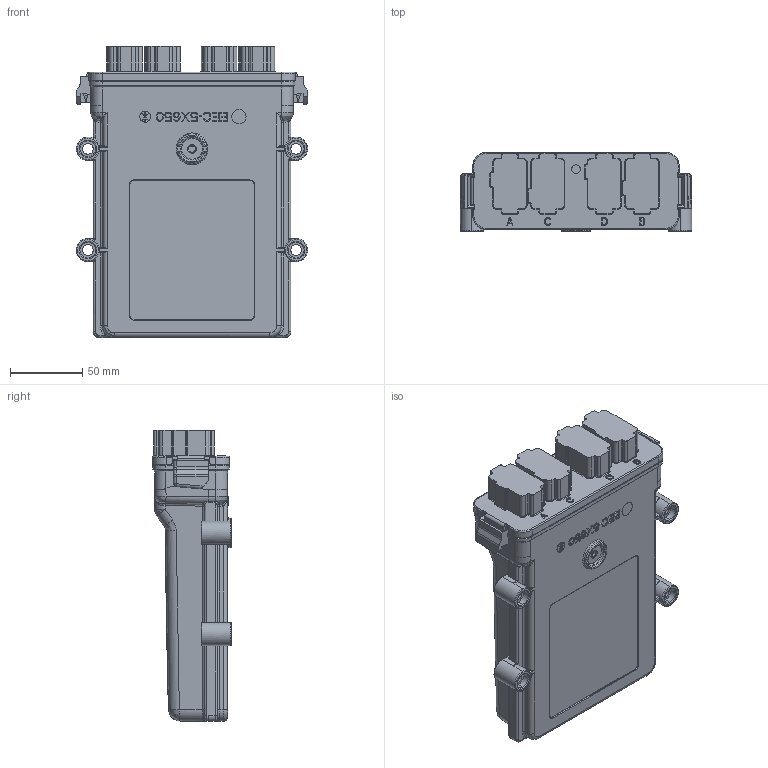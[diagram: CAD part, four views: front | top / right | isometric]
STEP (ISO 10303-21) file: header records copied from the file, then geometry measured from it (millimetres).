
FILE_DESCRIPTION (( 'STEP AP203' ), '1' );
FILE_NAME ('CL-446.STEP', '2014-04-17T16:30:21', ( '' ), ( '' ), 'SwSTEP 2.0', 'SolidWorks 2013', '' );
FILE_SCHEMA (( 'CONFIG_CONTROL_DESIGN' ));
Products named in the file (1): CL-446
Bounding box: 160 x 54.63 x 201.28 mm (x, y, z)
Volume: 353240.6 mm3; surface area: 184295.3 mm2
Topology: 1 solids, 1 shells, 3430 faces, 9002 edges, 5579 vertices
Faces by surface type: plane 1809, cylinder 901, bspline 680, cone 26, torus 14
Entity records: 134827 total; most frequent: CARTESIAN_POINT 57532, ORIENTED_EDGE 17850, DIRECTION 13424, EDGE_CURVE 8925, VECTOR 5652, LINE 5652, VERTEX_POINT 5579, AXIS2_PLACEMENT_3D 3886
